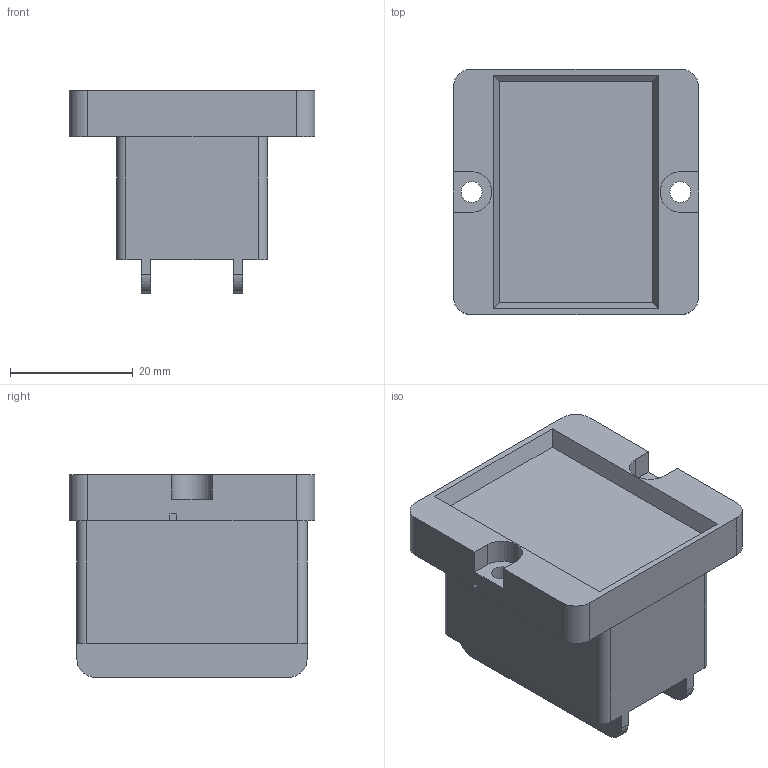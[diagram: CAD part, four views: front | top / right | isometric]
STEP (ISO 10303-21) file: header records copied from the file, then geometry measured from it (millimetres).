
FILE_DESCRIPTION((''),'2;1');
FILE_NAME('K:\TB\Bibliotheek Inventor\Relais voeten\V26 voet\V26 voet.stp','2007-06-15T14:03:49',('Arnoud'),(''),'Autodesk Inventor 2008','Autodesk Inventor 2008','');
FILE_SCHEMA(('AUTOMOTIVE_DESIGN { 1 0 10303 214 1 1 1 1 }'));
Length unit declared in the file: millimetre
Products named in the file (1): V26 voet
Bounding box: 40 x 40 x 33 mm (x, y, z)
Volume: 27907.2 mm3; surface area: 7997.6 mm2
Topology: 1 solids, 1 shells, 54 faces, 152 edges, 102 vertices
Faces by surface type: plane 38, cylinder 14, bspline 2
Entity records: 1776 total; most frequent: CARTESIAN_POINT 337, ORIENTED_EDGE 296, DIRECTION 286, EDGE_CURVE 148, VECTOR 116, LINE 116, VERTEX_POINT 100, AXIS2_PLACEMENT_3D 85
